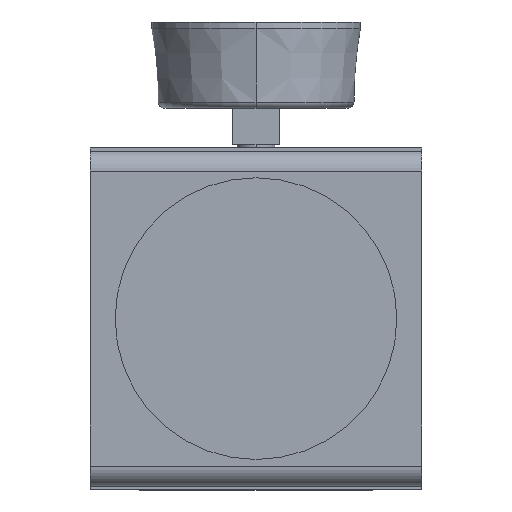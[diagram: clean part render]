
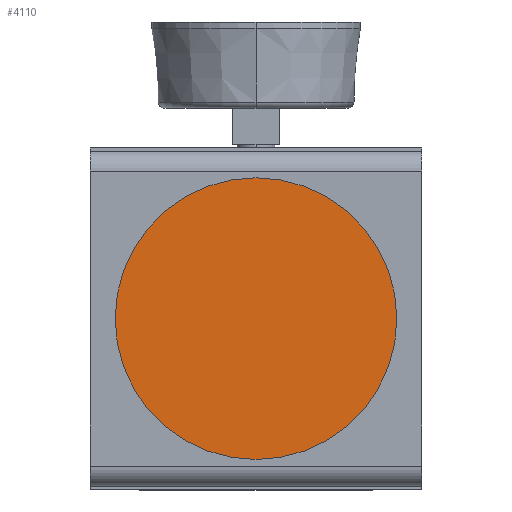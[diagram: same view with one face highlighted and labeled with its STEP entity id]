
A CAD part, front view. The second image highlights one B-rep face of the part: STEP entity #4110.
In plain terms, the highlighted planar face has unit normal (0, -1, 0).
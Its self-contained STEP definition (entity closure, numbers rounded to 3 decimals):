
#1244=CARTESIAN_POINT('',(0.,-51.5,0.));
#1245=DIRECTION('',(0.,-1.,0.));
#1246=DIRECTION('',(1.,0.,0.));
#1247=AXIS2_PLACEMENT_3D('',#1244,#1245,#1246);
#1253=CARTESIAN_POINT('',(0.,-51.5,0.));
#1254=DIRECTION('',(0.,1.,0.));
#1255=DIRECTION('',(1.,0.,0.));
#1256=AXIS2_PLACEMENT_3D('',#1253,#1254,#1255);
#2309=CARTESIAN_POINT('',(42.5,-51.5,0.));
#2310=CARTESIAN_POINT('',(-42.5,-51.5,0.));
#2311=VERTEX_POINT('',#2309);
#2312=VERTEX_POINT('',#2310);
#4101=CARTESIAN_POINT('',(0.,-51.5,0.));
#4102=DIRECTION('',(0.,-1.,0.));
#4103=DIRECTION('',(-1.,0.,0.));
#4104=AXIS2_PLACEMENT_3D('',#4101,#4102,#4103);
#4105=PLANE('',#4104);
#4106=ORIENTED_EDGE('',*,*,#4095,.T.);
#4107=ORIENTED_EDGE('',*,*,#4081,.F.);
#4108=EDGE_LOOP('',(#4106,#4107));
#4109=FACE_OUTER_BOUND('',#4108,.F.);
#4110=ADVANCED_FACE('',(#4109),#4105,.T.);
#1248=CIRCLE('',#1247,42.5);
#1257=CIRCLE('',#1256,42.5);
#4081=EDGE_CURVE('',#2311,#2312,#1248,.T.);
#4095=EDGE_CURVE('',#2311,#2312,#1257,.T.);
